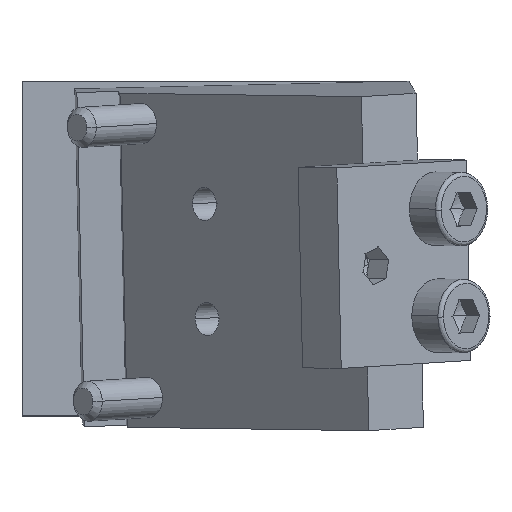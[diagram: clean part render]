
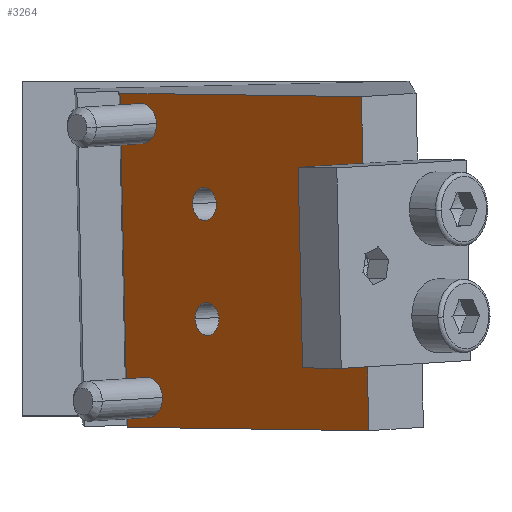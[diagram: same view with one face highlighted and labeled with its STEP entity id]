
A CAD part, top view. The second image highlights one B-rep face of the part: STEP entity #3264.
In plain terms, the highlighted planar face has unit normal (-0.691, -0.044, 0.721).
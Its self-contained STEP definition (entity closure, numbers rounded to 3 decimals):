
#3134 = EDGE_CURVE ( 'NONE', #3135, #3235, #20222, .T. ) ;
#3135 = VERTEX_POINT ( 'NONE', #20218 ) ;
#3165 = VERTEX_POINT ( 'NONE', #20342 ) ;
#3166 = VERTEX_POINT ( 'NONE', #20341 ) ;
#3168 = EDGE_CURVE ( 'NONE', #3166, #3165, #20340, .T. ) ;
#3176 = VERTEX_POINT ( 'NONE', #20321 ) ;
#3178 = EDGE_CURVE ( 'NONE', #3179, #3176, #20320, .T. ) ;
#3179 = VERTEX_POINT ( 'NONE', #20315 ) ;
#3205 = EDGE_LOOP ( 'NONE', ( #3249, #3251 ) ) ;
#3212 = EDGE_CURVE ( 'NONE', #3213, #3214, #20437, .T. ) ;
#3213 = VERTEX_POINT ( 'NONE', #20433 ) ;
#3214 = VERTEX_POINT ( 'NONE', #20432 ) ;
#3235 = VERTEX_POINT ( 'NONE', #20459 ) ;
#3249 = ORIENTED_EDGE ( 'NONE', *, *, #3250, .T. ) ;
#3250 = EDGE_CURVE ( 'NONE', #3235, #3135, #20495, .T. ) ;
#3251 = ORIENTED_EDGE ( 'NONE', *, *, #3134, .T. ) ;
#3252 = EDGE_LOOP ( 'NONE', ( #3253, #3255 ) ) ;
#3253 = ORIENTED_EDGE ( 'NONE', *, *, #3254, .T. ) ;
#3254 = EDGE_CURVE ( 'NONE', #3214, #3213, #20490, .T. ) ;
#3255 = ORIENTED_EDGE ( 'NONE', *, *, #3212, .T. ) ;
#3264 = ADVANCED_FACE ( 'NONE', ( #20471, #20470, #20535, #20534, #20533 ), #20532, .T. ) ;
#3265 = EDGE_LOOP ( 'NONE', ( #3266, #3270, #3272, #3273, #3275, #3276 ) ) ;
#3266 = ORIENTED_EDGE ( 'NONE', *, *, #3267, .T. ) ;
#3267 = EDGE_CURVE ( 'NONE', #3268, #3269, #20527, .T. ) ;
#3268 = VERTEX_POINT ( 'NONE', #20523 ) ;
#3269 = VERTEX_POINT ( 'NONE', #20522 ) ;
#3270 = ORIENTED_EDGE ( 'NONE', *, *, #3271, .F. ) ;
#3271 = EDGE_CURVE ( 'NONE', #3297, #3269, #20521, .T. ) ;
#3272 = ORIENTED_EDGE ( 'NONE', *, *, #3295, .F. ) ;
#3273 = ORIENTED_EDGE ( 'NONE', *, *, #3274, .T. ) ;
#3274 = EDGE_CURVE ( 'NONE', #3296, #3366, #20517, .T. ) ;
#3275 = ORIENTED_EDGE ( 'NONE', *, *, #3365, .T. ) ;
#3276 = ORIENTED_EDGE ( 'NONE', *, *, #3277, .F. ) ;
#3277 = EDGE_CURVE ( 'NONE', #3268, #3363, #20513, .T. ) ;
#3278 = EDGE_LOOP ( 'NONE', ( #3279, #3280 ) ) ;
#3279 = ORIENTED_EDGE ( 'NONE', *, *, #3178, .T. ) ;
#3280 = ORIENTED_EDGE ( 'NONE', *, *, #3281, .T. ) ;
#3281 = EDGE_CURVE ( 'NONE', #3176, #3179, #20509, .T. ) ;
#3282 = EDGE_LOOP ( 'NONE', ( #3283, #3284 ) ) ;
#3283 = ORIENTED_EDGE ( 'NONE', *, *, #3168, .T. ) ;
#3284 = ORIENTED_EDGE ( 'NONE', *, *, #3285, .T. ) ;
#3285 = EDGE_CURVE ( 'NONE', #3165, #3166, #20564, .T. ) ;
#3295 = EDGE_CURVE ( 'NONE', #3296, #3297, #20549, .T. ) ;
#3296 = VERTEX_POINT ( 'NONE', #20545 ) ;
#3297 = VERTEX_POINT ( 'NONE', #20544 ) ;
#3363 = VERTEX_POINT ( 'NONE', #20687 ) ;
#3365 = EDGE_CURVE ( 'NONE', #3366, #3363, #20686, .T. ) ;
#3366 = VERTEX_POINT ( 'NONE', #20682 ) ;
#20218 = CARTESIAN_POINT ( 'NONE',  ( 8.33, 1.354, 21.987 ) ) ;
#20219 = DIRECTION ( 'NONE',  ( 0.722, 0., 0.692 ) ) ;
#20220 = DIRECTION ( 'NONE',  ( 0.691, 0.044, -0.721 ) ) ;
#20221 = AXIS2_PLACEMENT_3D ( 'NONE', #20227, #20220, #20219 ) ;
#20222 = CIRCLE ( 'NONE', #20221, 1.5 ) ;
#20227 = CARTESIAN_POINT ( 'NONE',  ( 9.413, 1.354, 23.025 ) ) ;
#20315 = CARTESIAN_POINT ( 'NONE',  ( 14.719, 7.226, 28.469 ) ) ;
#20316 = DIRECTION ( 'NONE',  ( 0.722, 0., 0.692 ) ) ;
#20317 = DIRECTION ( 'NONE',  ( 0.691, 0.044, -0.721 ) ) ;
#20318 = CARTESIAN_POINT ( 'NONE',  ( 13.832, 7.226, 27.618 ) ) ;
#20319 = AXIS2_PLACEMENT_3D ( 'NONE', #20318, #20317, #20316 ) ;
#20320 = CIRCLE ( 'NONE', #20319, 1.23 ) ;
#20321 = CARTESIAN_POINT ( 'NONE',  ( 12.944, 7.226, 26.767 ) ) ;
#20336 = DIRECTION ( 'NONE',  ( 0.722, 0., 0.692 ) ) ;
#20337 = DIRECTION ( 'NONE',  ( 0.691, 0.044, -0.721 ) ) ;
#20338 = CARTESIAN_POINT ( 'NONE',  ( 13.642, 15.817, 27.957 ) ) ;
#20339 = AXIS2_PLACEMENT_3D ( 'NONE', #20338, #20337, #20336 ) ;
#20340 = CIRCLE ( 'NONE', #20339, 1.23 ) ;
#20341 = CARTESIAN_POINT ( 'NONE',  ( 14.53, 15.817, 28.808 ) ) ;
#20342 = CARTESIAN_POINT ( 'NONE',  ( 12.755, 15.817, 27.106 ) ) ;
#20379 = CARTESIAN_POINT ( 'NONE',  ( 8.962, 21.833, 23.835 ) ) ;
#20432 = CARTESIAN_POINT ( 'NONE',  ( 10.045, 21.833, 24.873 ) ) ;
#20433 = CARTESIAN_POINT ( 'NONE',  ( 7.879, 21.833, 22.797 ) ) ;
#20434 = DIRECTION ( 'NONE',  ( 0.722, 0., 0.692 ) ) ;
#20435 = DIRECTION ( 'NONE',  ( 0.691, 0.044, -0.721 ) ) ;
#20436 = AXIS2_PLACEMENT_3D ( 'NONE', #20379, #20435, #20434 ) ;
#20437 = CIRCLE ( 'NONE', #20436, 1.5 ) ;
#20459 = CARTESIAN_POINT ( 'NONE',  ( 10.496, 1.354, 24.063 ) ) ;
#20470 = FACE_BOUND ( 'NONE', #3278, .T. ) ;
#20471 = FACE_OUTER_BOUND ( 'NONE', #3265, .T. ) ;
#20486 = DIRECTION ( 'NONE',  ( 0.722, 0., 0.692 ) ) ;
#20487 = DIRECTION ( 'NONE',  ( 0.691, 0.044, -0.721 ) ) ;
#20488 = CARTESIAN_POINT ( 'NONE',  ( 8.962, 21.833, 23.835 ) ) ;
#20489 = AXIS2_PLACEMENT_3D ( 'NONE', #20488, #20487, #20486 ) ;
#20490 = CIRCLE ( 'NONE', #20489, 1.5 ) ;
#20491 = DIRECTION ( 'NONE',  ( 0.722, 0., 0.692 ) ) ;
#20492 = DIRECTION ( 'NONE',  ( 0.691, 0.044, -0.721 ) ) ;
#20493 = CARTESIAN_POINT ( 'NONE',  ( 9.413, 1.354, 23.025 ) ) ;
#20494 = AXIS2_PLACEMENT_3D ( 'NONE', #20493, #20492, #20491 ) ;
#20495 = CIRCLE ( 'NONE', #20494, 1.5 ) ;
#20504 = CARTESIAN_POINT ( 'NONE',  ( 13.642, 15.817, 27.957 ) ) ;
#20505 = DIRECTION ( 'NONE',  ( 0.722, 0., 0.692 ) ) ;
#20506 = DIRECTION ( 'NONE',  ( 0.691, 0.044, -0.721 ) ) ;
#20507 = CARTESIAN_POINT ( 'NONE',  ( 13.832, 7.226, 27.618 ) ) ;
#20508 = AXIS2_PLACEMENT_3D ( 'NONE', #20507, #20506, #20505 ) ;
#20509 = CIRCLE ( 'NONE', #20508, 1.23 ) ;
#20510 = DIRECTION ( 'NONE',  ( 0.022, -0.999, -0.039 ) ) ;
#20511 = VECTOR ( 'NONE', #20510, 1000. ) ;
#20512 = CARTESIAN_POINT ( 'NONE',  ( 25.817, 3.841, 38.904 ) ) ;
#20513 = LINE ( 'NONE', #20512, #20511 ) ;
#20514 = DIRECTION ( 'NONE',  ( 0.022, -0.999, -0.039 ) ) ;
#20515 = VECTOR ( 'NONE', #20514, 1000. ) ;
#20516 = CARTESIAN_POINT ( 'NONE',  ( 7.324, 24.106, 22.402 ) ) ;
#20517 = LINE ( 'NONE', #20516, #20515 ) ;
#20518 = DIRECTION ( 'NONE',  ( 0.022, -0.999, -0.039 ) ) ;
#20519 = VECTOR ( 'NONE', #20518, 1000. ) ;
#20520 = CARTESIAN_POINT ( 'NONE',  ( 25.377, 23.82, 39.693 ) ) ;
#20521 = LINE ( 'NONE', #20520, #20519 ) ;
#20522 = CARTESIAN_POINT ( 'NONE',  ( 25.487, 18.825, 39.496 ) ) ;
#20523 = CARTESIAN_POINT ( 'NONE',  ( 25.817, 3.841, 38.904 ) ) ;
#20524 = DIRECTION ( 'NONE',  ( -0.022, 0.999, 0.039 ) ) ;
#20525 = VECTOR ( 'NONE', #20524, 1000. ) ;
#20526 = CARTESIAN_POINT ( 'NONE',  ( 25.817, 3.841, 38.904 ) ) ;
#20527 = LINE ( 'NONE', #20526, #20525 ) ;
#20528 = DIRECTION ( 'NONE',  ( 0.722, 0., 0.692 ) ) ;
#20529 = DIRECTION ( 'NONE',  ( -0.691, -0.044, 0.721 ) ) ;
#20530 = CARTESIAN_POINT ( 'NONE',  ( 25.927, -1.154, 38.706 ) ) ;
#20531 = AXIS2_PLACEMENT_3D ( 'NONE', #20530, #20529, #20528 ) ;
#20532 = PLANE ( 'NONE',  #20531 ) ;
#20533 = FACE_BOUND ( 'NONE', #3252, .T. ) ;
#20534 = FACE_BOUND ( 'NONE', #3205, .T. ) ;
#20535 = FACE_BOUND ( 'NONE', #3282, .T. ) ;
#20544 = CARTESIAN_POINT ( 'NONE',  ( 25.377, 23.82, 39.693 ) ) ;
#20545 = CARTESIAN_POINT ( 'NONE',  ( 7.324, 24.106, 22.402 ) ) ;
#20546 = DIRECTION ( 'NONE',  ( 0.722, -0.011, 0.692 ) ) ;
#20547 = VECTOR ( 'NONE', #20546, 1000. ) ;
#20548 = CARTESIAN_POINT ( 'NONE',  ( 7.324, 24.106, 22.402 ) ) ;
#20549 = LINE ( 'NONE', #20548, #20547 ) ;
#20561 = DIRECTION ( 'NONE',  ( 0.722, 0., 0.692 ) ) ;
#20562 = DIRECTION ( 'NONE',  ( 0.691, 0.044, -0.721 ) ) ;
#20563 = AXIS2_PLACEMENT_3D ( 'NONE', #20504, #20562, #20561 ) ;
#20564 = CIRCLE ( 'NONE', #20563, 1.23 ) ;
#20682 = CARTESIAN_POINT ( 'NONE',  ( 7.874, -0.869, 21.415 ) ) ;
#20683 = DIRECTION ( 'NONE',  ( 0.722, -0.011, 0.692 ) ) ;
#20684 = VECTOR ( 'NONE', #20683, 1000. ) ;
#20685 = CARTESIAN_POINT ( 'NONE',  ( 7.874, -0.869, 21.415 ) ) ;
#20686 = LINE ( 'NONE', #20685, #20684 ) ;
#20687 = CARTESIAN_POINT ( 'NONE',  ( 25.927, -1.154, 38.706 ) ) ;
